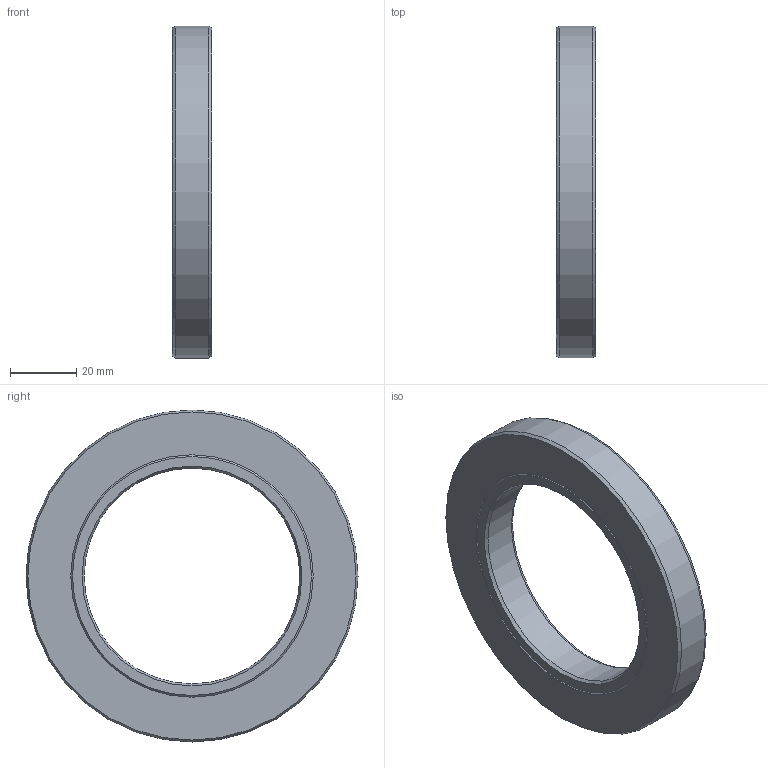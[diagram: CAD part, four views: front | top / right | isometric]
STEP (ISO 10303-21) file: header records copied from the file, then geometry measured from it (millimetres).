
FILE_DESCRIPTION(/* description */ (''),/* implementation_level */ '2;1');
FILE_NAME(/* name */ '301910 SA 65x100x12.stp',/* time_stamp */ '2016-12-16T15:09:21+01:00',/* author */ (''),/* organization */ (''),/* preprocessor_version */ 'ST-DEVELOPER v15',/* originating_system */ 'SIEMENS PLM Software NX 8.5',/* authorisation */ '');
FILE_SCHEMA (('CONFIG_CONTROL_DESIGN'));
Length unit declared in the file: millimetre
Products named in the file (1): ATE0000144_01
Bounding box: 12 x 100 x 100 mm (x, y, z)
Volume: 52475.1 mm3; surface area: 22294.9 mm2
Topology: 2 solids, 2 shells, 18 faces, 37 edges, 23 vertices
Faces by surface type: cone 10, plane 5, cylinder 3
Full cylindrical faces by diameter (mm): 65 x1, 100 x1
Entity records: 492 total; most frequent: DIRECTION 76, CARTESIAN_POINT 74, ORIENTED_EDGE 46, AXIS2_PLACEMENT_3D 38, EDGE_LOOP 33, FACE_BOUND 30, EDGE_CURVE 23, VERTEX_POINT 20
